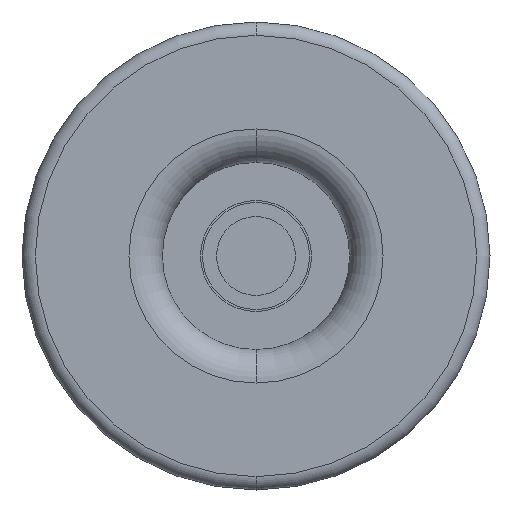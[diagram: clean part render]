
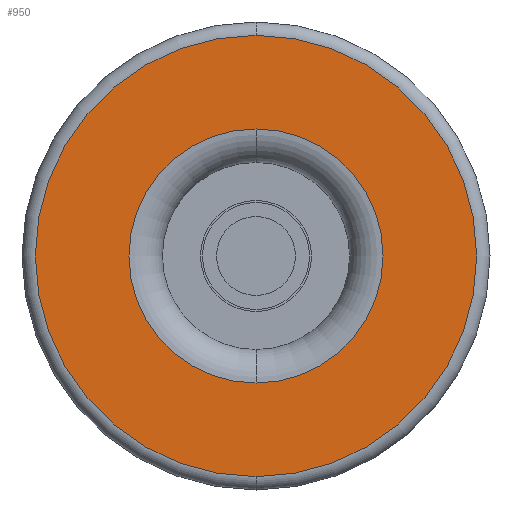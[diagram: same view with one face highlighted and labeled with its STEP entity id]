
A CAD part, front view. The second image highlights one B-rep face of the part: STEP entity #950.
In plain terms, the highlighted planar face has unit normal (0, -1, 0).
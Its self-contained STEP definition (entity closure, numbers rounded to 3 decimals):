
#121 = CARTESIAN_POINT ( 'NONE',  ( 0., 0., -16.5 ) ) ;
#162 = CARTESIAN_POINT ( 'NONE',  ( 0., 0., 0. ) ) ;
#166 = DIRECTION ( 'NONE',  ( 0., -1., 0. ) ) ;
#352 = EDGE_CURVE ( 'NONE', #6037, #2786, #3566, .T. ) ;
#369 = ORIENTED_EDGE ( 'NONE', *, *, #5567, .T. ) ;
#540 = CARTESIAN_POINT ( 'NONE',  ( 0., 0., 0. ) ) ;
#587 = EDGE_CURVE ( 'NONE', #1865, #4135, #1174, .T. ) ;
#781 = CARTESIAN_POINT ( 'NONE',  ( 0., 0., 0. ) ) ;
#950 = ADVANCED_FACE ( 'NONE', ( #3573, #2458 ), #3185, .T. ) ;
#1103 = DIRECTION ( 'NONE',  ( 0., 0., -1. ) ) ;
#1174 = CIRCLE ( 'NONE', #2953, 9.5 ) ;
#1632 = CARTESIAN_POINT ( 'NONE',  ( -7., 0., 0. ) ) ;
#1865 = VERTEX_POINT ( 'NONE', #6054 ) ;
#2028 = DIRECTION ( 'NONE',  ( 0., 0., -1. ) ) ;
#2145 = EDGE_LOOP ( 'NONE', ( #5748, #4464 ) ) ;
#2458 = FACE_OUTER_BOUND ( 'NONE', #2723, .T. ) ;
#2489 = CARTESIAN_POINT ( 'NONE',  ( 0., 0., 9.5 ) ) ;
#2723 = EDGE_LOOP ( 'NONE', ( #3519, #369 ) ) ;
#2786 = VERTEX_POINT ( 'NONE', #3586 ) ;
#2823 = DIRECTION ( 'NONE',  ( 0., 0., -1. ) ) ;
#2865 = DIRECTION ( 'NONE',  ( 0., -1., 0. ) ) ;
#2953 = AXIS2_PLACEMENT_3D ( 'NONE', #162, #5825, #3260 ) ;
#3183 = EDGE_CURVE ( 'NONE', #4135, #1865, #4034, .T. ) ;
#3185 = PLANE ( 'NONE',  #5153 ) ;
#3256 = AXIS2_PLACEMENT_3D ( 'NONE', #540, #6644, #2028 ) ;
#3260 = DIRECTION ( 'NONE',  ( 0., 0., -1. ) ) ;
#3519 = ORIENTED_EDGE ( 'NONE', *, *, #352, .T. ) ;
#3566 = CIRCLE ( 'NONE', #5962, 16.5 ) ;
#3573 = FACE_BOUND ( 'NONE', #2145, .T. ) ;
#3586 = CARTESIAN_POINT ( 'NONE',  ( 0., 0., 16.5 ) ) ;
#3714 = AXIS2_PLACEMENT_3D ( 'NONE', #3749, #166, #4729 ) ;
#3749 = CARTESIAN_POINT ( 'NONE',  ( 0., 0., 0. ) ) ;
#4034 = CIRCLE ( 'NONE', #3256, 9.5 ) ;
#4135 = VERTEX_POINT ( 'NONE', #2489 ) ;
#4150 = DIRECTION ( 'NONE',  ( 0., -1., 0. ) ) ;
#4349 = CIRCLE ( 'NONE', #3714, 16.5 ) ;
#4464 = ORIENTED_EDGE ( 'NONE', *, *, #3183, .T. ) ;
#4729 = DIRECTION ( 'NONE',  ( 0., 0., -1. ) ) ;
#5153 = AXIS2_PLACEMENT_3D ( 'NONE', #1632, #4150, #1103 ) ;
#5567 = EDGE_CURVE ( 'NONE', #2786, #6037, #4349, .T. ) ;
#5748 = ORIENTED_EDGE ( 'NONE', *, *, #587, .T. ) ;
#5825 = DIRECTION ( 'NONE',  ( 0., 1., 0. ) ) ;
#5962 = AXIS2_PLACEMENT_3D ( 'NONE', #781, #2865, #2823 ) ;
#6037 = VERTEX_POINT ( 'NONE', #121 ) ;
#6054 = CARTESIAN_POINT ( 'NONE',  ( 0., 0., -9.5 ) ) ;
#6644 = DIRECTION ( 'NONE',  ( 0., 1., 0. ) ) ;
